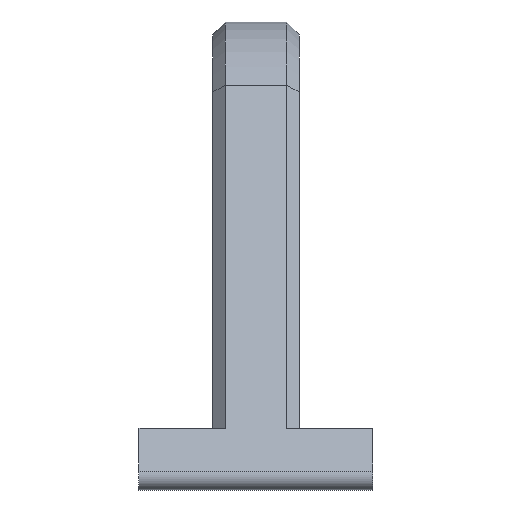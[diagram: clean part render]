
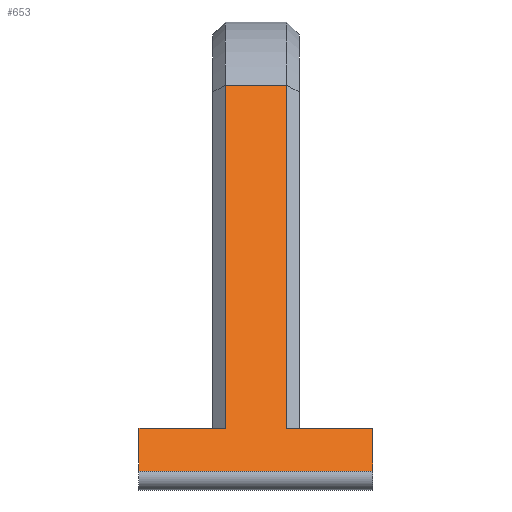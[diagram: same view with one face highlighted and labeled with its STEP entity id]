
A CAD part, front view. The second image highlights one B-rep face of the part: STEP entity #653.
In plain terms, the highlighted planar face has unit normal (0, -0.846, 0.533).
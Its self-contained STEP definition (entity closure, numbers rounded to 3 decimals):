
#9=DIRECTION('',(0.,-0.533,-0.846));
#10=VECTOR('',#9,4.097);
#11=CARTESIAN_POINT('',(-9.5,-26.852,5.));
#12=LINE('',#11,#10);
#13=DIRECTION('',(-1.,0.,0.));
#14=VECTOR('',#13,19.);
#15=CARTESIAN_POINT('',(9.5,-29.035,1.533));
#16=LINE('',#15,#14);
#35=DIRECTION('',(1.,0.,0.));
#36=VECTOR('',#35,7.);
#37=CARTESIAN_POINT('',(-9.5,-26.852,5.));
#38=LINE('',#37,#36);
#229=DIRECTION('',(1.,0.,0.));
#230=VECTOR('',#229,7.);
#231=CARTESIAN_POINT('',(2.5,-26.852,5.));
#232=LINE('',#231,#230);
#304=DIRECTION('',(0.,0.533,0.846));
#305=VECTOR('',#304,32.924);
#306=CARTESIAN_POINT('',(2.5,-26.852,5.));
#307=LINE('',#306,#305);
#312=DIRECTION('',(-1.,0.,0.));
#313=VECTOR('',#312,5.);
#314=CARTESIAN_POINT('',(2.5,-9.308,32.861));
#315=LINE('',#314,#313);
#368=DIRECTION('',(0.,-0.533,-0.846));
#369=VECTOR('',#368,4.097);
#370=CARTESIAN_POINT('',(9.5,-26.852,5.));
#371=LINE('',#370,#369);
#388=DIRECTION('',(0.,0.533,0.846));
#389=VECTOR('',#388,32.924);
#390=CARTESIAN_POINT('',(-2.5,-26.852,5.));
#391=LINE('',#390,#389);
#461=CARTESIAN_POINT('',(-9.5,-26.852,5.));
#463=VERTEX_POINT('',#461);
#465=CARTESIAN_POINT('',(9.5,-26.852,5.));
#467=VERTEX_POINT('',#465);
#469=CARTESIAN_POINT('',(9.5,-29.035,1.533));
#470=CARTESIAN_POINT('',(-9.5,-29.035,1.533));
#471=VERTEX_POINT('',#469);
#472=VERTEX_POINT('',#470);
#559=CARTESIAN_POINT('',(2.5,-9.308,32.861));
#560=VERTEX_POINT('',#559);
#563=CARTESIAN_POINT('',(2.5,-26.852,5.));
#564=VERTEX_POINT('',#563);
#575=CARTESIAN_POINT('',(-2.5,-9.308,32.861));
#576=VERTEX_POINT('',#575);
#579=CARTESIAN_POINT('',(-2.5,-26.852,5.));
#580=VERTEX_POINT('',#579);
#632=CARTESIAN_POINT('',(11.4,-30.,0.));
#633=DIRECTION('',(0.,0.846,-0.533));
#634=DIRECTION('',(0.,0.533,0.846));
#635=AXIS2_PLACEMENT_3D('',#632,#633,#634);
#636=PLANE('',#635);
#637=ORIENTED_EDGE('',*,*,#622,.T.);
#638=ORIENTED_EDGE('',*,*,#612,.F.);
#640=ORIENTED_EDGE('',*,*,#639,.T.);
#642=ORIENTED_EDGE('',*,*,#641,.T.);
#644=ORIENTED_EDGE('',*,*,#643,.F.);
#646=ORIENTED_EDGE('',*,*,#645,.F.);
#648=ORIENTED_EDGE('',*,*,#647,.T.);
#650=ORIENTED_EDGE('',*,*,#649,.T.);
#651=EDGE_LOOP('',(#637,#638,#640,#642,#644,#646,#648,#650));
#652=FACE_OUTER_BOUND('',#651,.F.);
#653=ADVANCED_FACE('',(#652),#636,.F.);
#612=EDGE_CURVE('',#463,#472,#12,.T.);
#622=EDGE_CURVE('',#471,#472,#16,.T.);
#639=EDGE_CURVE('',#463,#580,#38,.T.);
#641=EDGE_CURVE('',#580,#576,#391,.T.);
#643=EDGE_CURVE('',#560,#576,#315,.T.);
#645=EDGE_CURVE('',#564,#560,#307,.T.);
#647=EDGE_CURVE('',#564,#467,#232,.T.);
#649=EDGE_CURVE('',#467,#471,#371,.T.);
